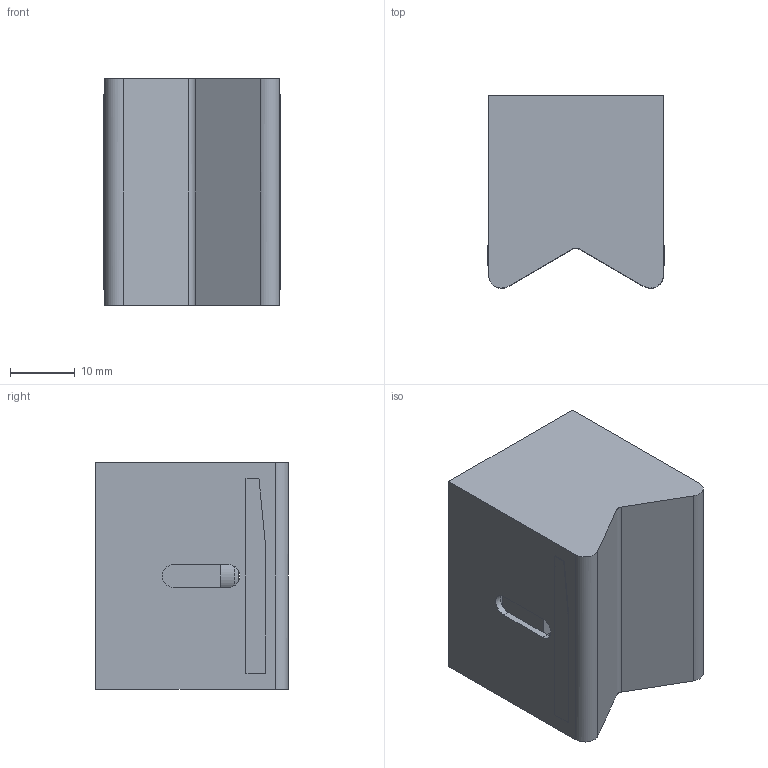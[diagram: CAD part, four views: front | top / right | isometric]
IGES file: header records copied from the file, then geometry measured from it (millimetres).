
Global section: file name: MGSS-17982-1; native system: unknown; preprocessor: unknown; author: unknown; organization: unknown; date: 20230601.165732; units: millimetre
Bounding box: 27.2 x 29.74 x 35 mm (x, y, z)
Volume: 10432.8 mm3; surface area: 13325 mm2
Topology: 7 solids, 7 shells, 75 faces, 178 edges, 121 vertices
Faces by surface type: bspline 75
